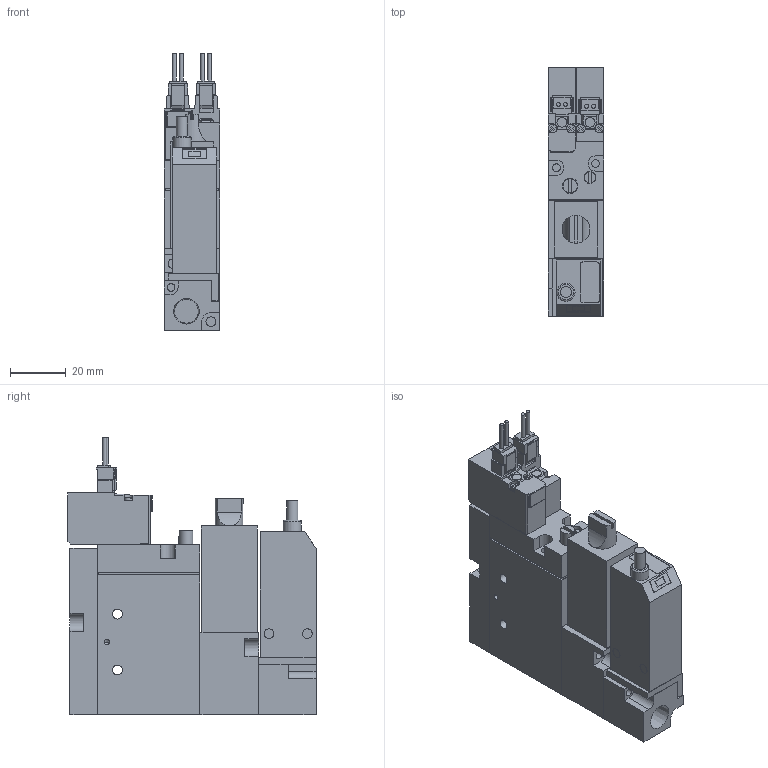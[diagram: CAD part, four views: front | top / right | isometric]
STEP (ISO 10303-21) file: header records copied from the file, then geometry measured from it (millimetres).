
FILE_DESCRIPTION(('STEP AP203'),'1');
FILE_NAME('BMPV32S2NAB25AL.stp','2025-06-17T01:51:05',(' '),(' '),'Spatial InterOp 3D',' ',' ');
FILE_SCHEMA(('CONFIG_CONTROL_DESIGN'));
Length unit declared in the file: millimetre
Products named in the file (14): BMPV32S2NAB25AL; __ ___ (Rc); Filter Assy; __; _____; Pressure sensor ABSL; ___-2(Rc); ___ ___2; ___; upper plate-A; ______; ____; VACUUM VALVE FUNCTION MPV42-A; UV280-4E
Assembly tree (13 placements, depth 2):
  BMPV32S2NAB25AL
    __ ___ (Rc)
    Filter Assy
    __
    _____
    Pressure sensor ABSL
    ___-2(Rc)
    ___ ___2
    ___
    upper plate-A
    ______
    ____
    VACUUM VALVE FUNCTION MPV42-A
    UV280-4E
Bounding box: 20 x 88.7 x 99.25 mm (x, y, z)
Volume: 109440.3 mm3; surface area: 37222.5 mm2
Topology: 13 solids, 13 shells, 397 faces, 1031 edges, 683 vertices
Faces by surface type: plane 321, cylinder 67, cone 8, torus 1
Full cylindrical faces by diameter (mm): 1.4 x4, 1.8 x2, 2 x2, 2.5 x2, 2.8 x4, 3 x4, 3.5 x12, 4 x2, 4.2 x1, 5 x1, 5.5 x1, 6.5 x2, 8.522 x1
Entity records: 12512 total; most frequent: CARTESIAN_POINT 2128, DIRECTION 1958, ORIENTED_EDGE 1938, EDGE_CURVE 969, LINE 794, VECTOR 794, VERTEX_POINT 674, AXIS2_PLACEMENT_3D 582
